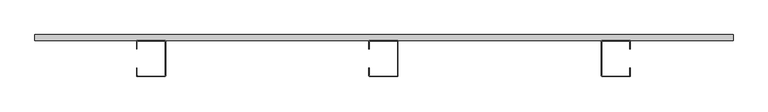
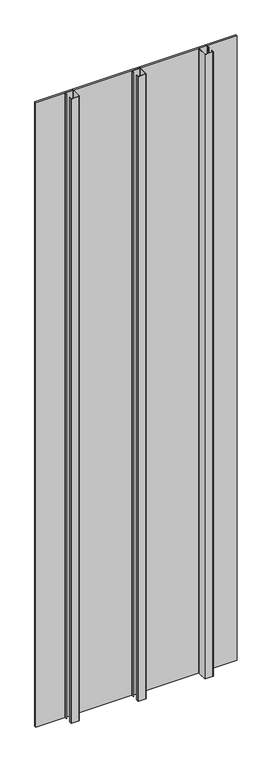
"""IFC4 building model written with IfcOpenShell, lengths in millimetres: plate geometry, Steelfoam Divisorio : Divisorio 9cm."""

from ifc_helpers import new_model, si_unit, point, frame_2d, origin, origin_with_axes, place, context, project, spatial, polyline, circle_curve, trimmed, segment, composite_curve, outline, extrude, source, transform, mapped, element, save


def plate_38784041(model_context):
    return source(origin(), model_context, "Body", "SweptSolid", [
        extrude(outline(composite_curve([segment(trimmed(circle_curve(frame_2d((381.6603819, -61.5)), 2.0), [point((381.6603819, -63.5))], [point((379.6603819, -61.5))], False, "CARTESIAN"), True, "CONTINUOUS"), segment(polyline([(379.6603819, -61.5), (379.6603819, -2.0)]), True, "CONTINUOUS"), segment(trimmed(circle_curve(frame_2d((381.6603819, -2.0)), 2.0), [point((379.6603819, -2.0))], [point((381.6603819, 0.0))], False, "CARTESIAN"), True, "CONTINUOUS"), segment(polyline([(381.6603819, 0.0), (428.4603819, 0.0)]), True, "CONTINUOUS"), segment(trimmed(circle_curve(frame_2d((428.4603819, -2.0)), 2.0), [point((428.4603819, 0.0))], [point((430.4603819, -2.0))], False, "CARTESIAN"), True, "CONTINUOUS"), segment(polyline([(430.4603819, -2.0), (430.4603819, -15.0), (429.6603819, -15.0), (429.6603819, -2.0)]), True, "CONTINUOUS"), segment(trimmed(circle_curve(frame_2d((428.3603819, -2.0)), 1.3), [point((429.6603819, -2.0))], [point((428.3603819, -0.7))], True, "CARTESIAN"), True, "CONTINUOUS"), segment(polyline([(428.3603819, -0.7), (381.6603819, -0.7)]), True, "CONTINUOUS"), segment(trimmed(circle_curve(frame_2d((381.6603819, -2.0)), 1.3), [point((381.6603819, -0.7))], [point((380.3603819, -2.0))], True, "CARTESIAN"), True, "CONTINUOUS"), segment(polyline([(380.3603819, -2.0), (380.3603819, -61.5)]), True, "CONTINUOUS"), segment(trimmed(circle_curve(frame_2d((381.6603819, -61.5)), 1.3), [point((380.3603819, -61.5))], [point((381.6603819, -62.8))], True, "CARTESIAN"), True, "CONTINUOUS"), segment(polyline([(381.6603819, -62.8), (428.3603819, -62.8)]), True, "CONTINUOUS"), segment(trimmed(circle_curve(frame_2d((428.3603819, -61.5)), 1.3), [point((428.3603819, -62.8))], [point((429.6603819, -61.5))], True, "CARTESIAN"), True, "CONTINUOUS"), segment(polyline([(429.6603819, -61.5), (429.6603819, -48.5), (430.4603819, -48.5), (430.4603819, -61.5)]), True, "CONTINUOUS"), segment(trimmed(circle_curve(frame_2d((428.4603819, -61.5)), 2.0), [point((430.4603819, -61.5))], [point((428.4603819, -63.5))], False, "CARTESIAN"), True, "CONTINUOUS"), segment(polyline([(428.4603819, -63.5), (381.6603819, -63.5)]), True, "CONTINUOUS")], self_intersect=False)), origin_with_axes(), (0.0, 0.0, 1.0), 4000.0),
        extrude(outline(composite_curve([segment(polyline([(-383.6225297, -63.5), (-430.4225297, -63.5)]), True, "CONTINUOUS"), segment(trimmed(circle_curve(frame_2d((-430.4225297, -61.5)), 2.0), [point((-430.4225297, -63.5))], [point((-432.4225297, -61.5))], False, "CARTESIAN"), True, "CONTINUOUS"), segment(polyline([(-432.4225297, -61.5), (-432.4225297, -48.5), (-431.6225297, -48.5), (-431.6225297, -61.5)]), True, "CONTINUOUS"), segment(trimmed(circle_curve(frame_2d((-430.3225297, -61.5)), 1.3), [point((-431.6225297, -61.5))], [point((-430.3225297, -62.8))], True, "CARTESIAN"), True, "CONTINUOUS"), segment(polyline([(-430.3225297, -62.8), (-383.6225297, -62.8)]), True, "CONTINUOUS"), segment(trimmed(circle_curve(frame_2d((-383.6225297, -61.5)), 1.3), [point((-383.6225297, -62.8))], [point((-382.3225297, -61.5))], True, "CARTESIAN"), True, "CONTINUOUS"), segment(polyline([(-382.3225297, -61.5), (-382.3225297, -2.0)]), True, "CONTINUOUS"), segment(trimmed(circle_curve(frame_2d((-383.6225297, -2.0)), 1.3), [point((-382.3225297, -2.0))], [point((-383.6225297, -0.7))], True, "CARTESIAN"), True, "CONTINUOUS"), segment(polyline([(-383.6225297, -0.7), (-430.3225297, -0.7)]), True, "CONTINUOUS"), segment(trimmed(circle_curve(frame_2d((-430.3225297, -2.0)), 1.3), [point((-430.3225297, -0.7))], [point((-431.6225297, -2.0))], True, "CARTESIAN"), True, "CONTINUOUS"), segment(polyline([(-431.6225297, -2.0), (-431.6225297, -15.0), (-432.4225297, -15.0), (-432.4225297, -2.0)]), True, "CONTINUOUS"), segment(trimmed(circle_curve(frame_2d((-430.4225297, -2.0)), 2.0), [point((-432.4225297, -2.0))], [point((-430.4225297, 0.0))], False, "CARTESIAN"), True, "CONTINUOUS"), segment(polyline([(-430.4225297, 0.0), (-383.6225297, 0.0)]), True, "CONTINUOUS"), segment(trimmed(circle_curve(frame_2d((-383.6225297, -2.0)), 2.0), [point((-383.6225297, 0.0))], [point((-381.6225297, -2.0))], False, "CARTESIAN"), True, "CONTINUOUS"), segment(polyline([(-381.6225297, -2.0), (-381.6225297, -61.5)]), True, "CONTINUOUS"), segment(trimmed(circle_curve(frame_2d((-383.6225297, -61.5)), 2.0), [point((-381.6225297, -61.5))], [point((-383.6225297, -63.5))], False, "CARTESIAN"), True, "CONTINUOUS")], self_intersect=False)), origin_with_axes(), (0.0, 0.0, 1.0), 4000.0),
        extrude(outline(composite_curve([segment(polyline([(22.3849224, -63.5), (-24.4150776, -63.5)]), True, "CONTINUOUS"), segment(trimmed(circle_curve(frame_2d((-24.4150776, -61.5)), 2.0), [point((-24.4150776, -63.5))], [point((-26.4150776, -61.5))], False, "CARTESIAN"), True, "CONTINUOUS"), segment(polyline([(-26.4150776, -61.5), (-26.4150776, -48.5), (-25.6150776, -48.5), (-25.6150776, -61.5)]), True, "CONTINUOUS"), segment(trimmed(circle_curve(frame_2d((-24.3150776, -61.5)), 1.3), [point((-25.6150776, -61.5))], [point((-24.3150776, -62.8))], True, "CARTESIAN"), True, "CONTINUOUS"), segment(polyline([(-24.3150776, -62.8), (22.3849224, -62.8)]), True, "CONTINUOUS"), segment(trimmed(circle_curve(frame_2d((22.3849224, -61.5)), 1.3), [point((22.3849224, -62.8))], [point((23.6849224, -61.5))], True, "CARTESIAN"), True, "CONTINUOUS"), segment(polyline([(23.6849224, -61.5), (23.6849224, -2.0)]), True, "CONTINUOUS"), segment(trimmed(circle_curve(frame_2d((22.3849224, -2.0)), 1.3), [point((23.6849224, -2.0))], [point((22.3849224, -0.7))], True, "CARTESIAN"), True, "CONTINUOUS"), segment(polyline([(22.3849224, -0.7), (-24.3150776, -0.7)]), True, "CONTINUOUS"), segment(trimmed(circle_curve(frame_2d((-24.3150776, -2.0)), 1.3), [point((-24.3150776, -0.7))], [point((-25.6150776, -2.0))], True, "CARTESIAN"), True, "CONTINUOUS"), segment(polyline([(-25.6150776, -2.0), (-25.6150776, -15.0), (-26.4150776, -15.0), (-26.4150776, -2.0)]), True, "CONTINUOUS"), segment(trimmed(circle_curve(frame_2d((-24.4150776, -2.0)), 2.0), [point((-26.4150776, -2.0))], [point((-24.4150776, 0.0))], False, "CARTESIAN"), True, "CONTINUOUS"), segment(polyline([(-24.4150776, 0.0), (22.3849224, 0.0)]), True, "CONTINUOUS"), segment(trimmed(circle_curve(frame_2d((22.3849224, -2.0)), 2.0), [point((22.3849224, 0.0))], [point((24.3849224, -2.0))], False, "CARTESIAN"), True, "CONTINUOUS"), segment(polyline([(24.3849224, -2.0), (24.3849224, -61.5)]), True, "CONTINUOUS"), segment(trimmed(circle_curve(frame_2d((22.3849224, -61.5)), 2.0), [point((24.3849224, -61.5))], [point((22.3849224, -63.5))], False, "CARTESIAN"), True, "CONTINUOUS")], self_intersect=False)), origin_with_axes(), (0.0, 0.0, 1.0), 4000.0),
        extrude(outline(polyline([(610.0, 0.0), (-610.0, 0.0), (-610.0, 10.0), (610.0, 10.0), (610.0, 0.0)])), origin_with_axes(), (0.0, 0.0, 1.0), 4000.0),
    ])


if __name__ == "__main__":
    model = new_model("IFC4")
    model_context = context("Model", 3, world=origin())
    ifc_project = project(units=[si_unit("LENGTHUNIT", "METRE", prefix="MILLI")], contexts=[model_context])
    site = spatial("IfcSite", under=ifc_project)
    building = spatial("IfcBuilding", under=site)
    placement = place(None, origin())
    plate_shape = plate_38784041(model_context)
    element("IfcPlate", 1, ObjectType="Steelfoam Divisorio : Divisorio 9cm", at=placement, inside=building, context=model_context, shape_type="MappedRepresentation", body=[
        mapped(plate_shape, transform((0.0, 0.0, 0.0), x_axis=(1.0, 0.0, 0.0), y_axis=(0.0, 1.0, 0.0), z_axis=(0.0, 0.0, 1.0))),
    ])
    save(model, "model.ifc")
